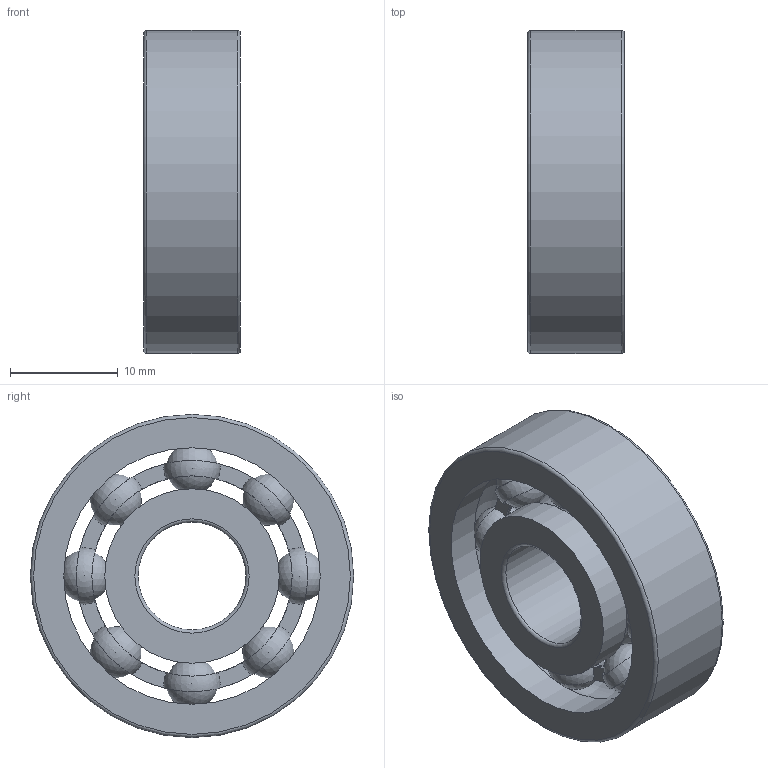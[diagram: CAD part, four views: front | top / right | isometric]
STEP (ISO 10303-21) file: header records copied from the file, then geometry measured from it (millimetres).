
FILE_DESCRIPTION(/* description */ (''),/* implementation_level */ '2;1');
FILE_NAME(/* name */ 'D:\moje\parametrické\62--\rada62--\62--\6200.stp',/* time_stamp */ '2016-01-21T12:27:57+01:00',/* author */ ('OUBALASKO'),/* organization */ (''),/* preprocessor_version */ 'ST-DEVELOPER v15.2',/* originating_system */ 'Autodesk Inventor 2014',/* authorisation */ '');
FILE_SCHEMA (('AUTOMOTIVE_DESIGN { 1 0 10303 214 3 1 1 }'));
Length unit declared in the file: millimetre
Products named in the file (5): 6200-02; 6200-ball; 6200-cage; 6200-01; 6200
Bounding box: 9 x 30 x 30 mm (x, y, z)
Volume: 3888.8 mm3; surface area: 4168 mm2
Topology: 12 solids, 12 shells, 92 faces, 348 edges, 228 vertices
Faces by surface type: sphere 40, plane 36, cylinder 10, torus 6
Full cylindrical faces by diameter (mm): 10 x1, 16.19 x2, 18.571 x2, 21.429 x2, 23.81 x2, 30 x1
Entity records: 2272 total; most frequent: CARTESIAN_POINT 935, DIRECTION 298, ORIENTED_EDGE 226, AXIS2_PLACEMENT_3D 149, EDGE_CURVE 113, VERTEX_POINT 82, CIRCLE 81, EDGE_LOOP 69
